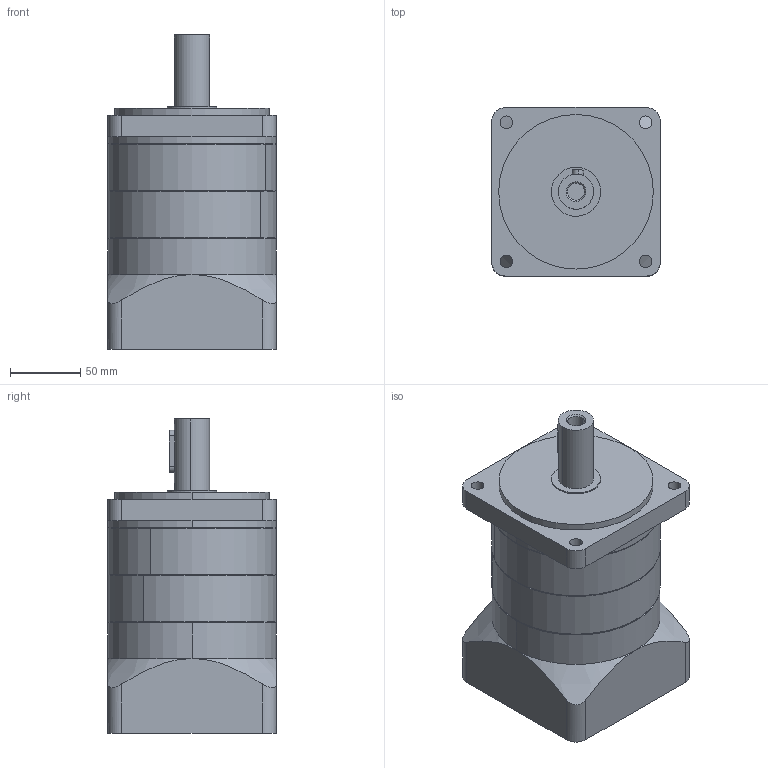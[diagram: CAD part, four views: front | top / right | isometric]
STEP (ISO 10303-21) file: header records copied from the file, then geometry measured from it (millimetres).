
FILE_DESCRIPTION (( 'STEP AP203' ), '1' );
FILE_NAME ('S120-L2.STEP', '2018-05-24T01:52:00', ( 'user' ), ( '' ), 'SwSTEP 2.0', 'SolidWorks 2014', '' );
FILE_SCHEMA (( 'CONFIG_CONTROL_DESIGN' ));
Length unit declared in the file: millimetre
Products named in the file (1): S120-L2
Bounding box: 120 x 120 x 223.5 mm (x, y, z)
Volume: 1818798.2 mm3; surface area: 208084.3 mm2
Topology: 5 solids, 5 shells, 105 faces, 225 edges, 142 vertices
Faces by surface type: cylinder 53, plane 36, cone 16
Entity records: 3278 total; most frequent: CARTESIAN_POINT 836, DIRECTION 533, ORIENTED_EDGE 450, EDGE_CURVE 225, AXIS2_PLACEMENT_3D 219, VERTEX_POINT 142, EDGE_LOOP 127, CIRCLE 113
